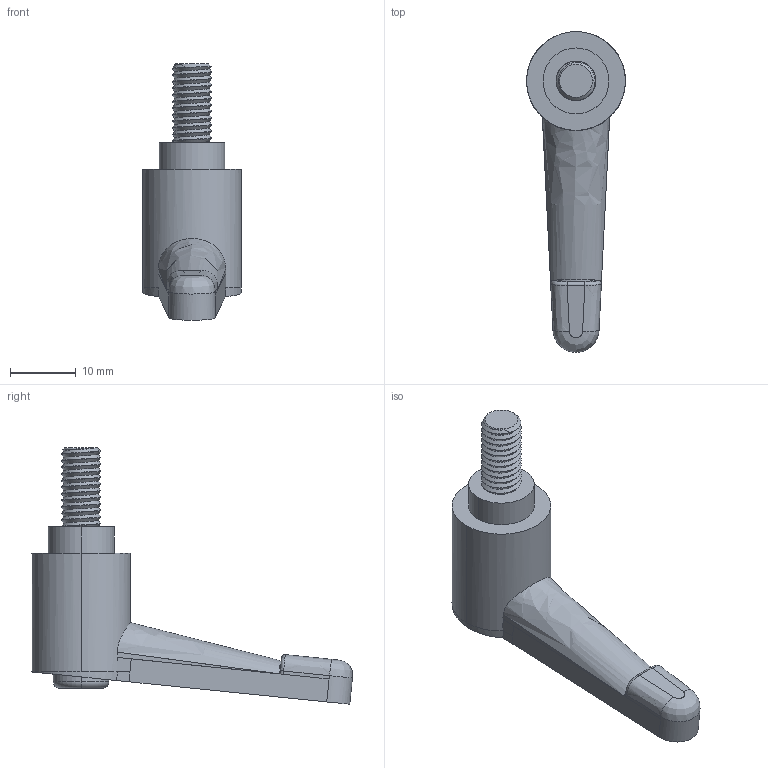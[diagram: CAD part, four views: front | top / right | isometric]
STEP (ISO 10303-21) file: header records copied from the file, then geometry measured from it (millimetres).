
FILE_DESCRIPTION (( 'STEP AP214' ), '1' );
FILE_NAME ('7144.STEP', '2015-04-16T11:52:49', ( 'user' ), ( '' ), 'SwSTEP 2.0', 'SolidWorks 2014', '' );
FILE_SCHEMA (( 'AUTOMOTIVE_DESIGN' ));
Length unit declared in the file: millimetre
Products named in the file (1): 7144
Bounding box: 15 x 48.65 x 38.91 mm (x, y, z)
Volume: 5783.3 mm3; surface area: 3586.1 mm2
Topology: 3 solids, 3 shells, 99 faces, 245 edges, 156 vertices
Faces by surface type: cylinder 42, plane 42, bspline 11, torus 2, cone 2
Entity records: 5804 total; most frequent: CARTESIAN_POINT 2601, ORIENTED_EDGE 490, DIRECTION 348, EDGE_CURVE 245, VERTEX_POINT 156, AXIS2_PLACEMENT_3D 119, LINE 110, VECTOR 110
